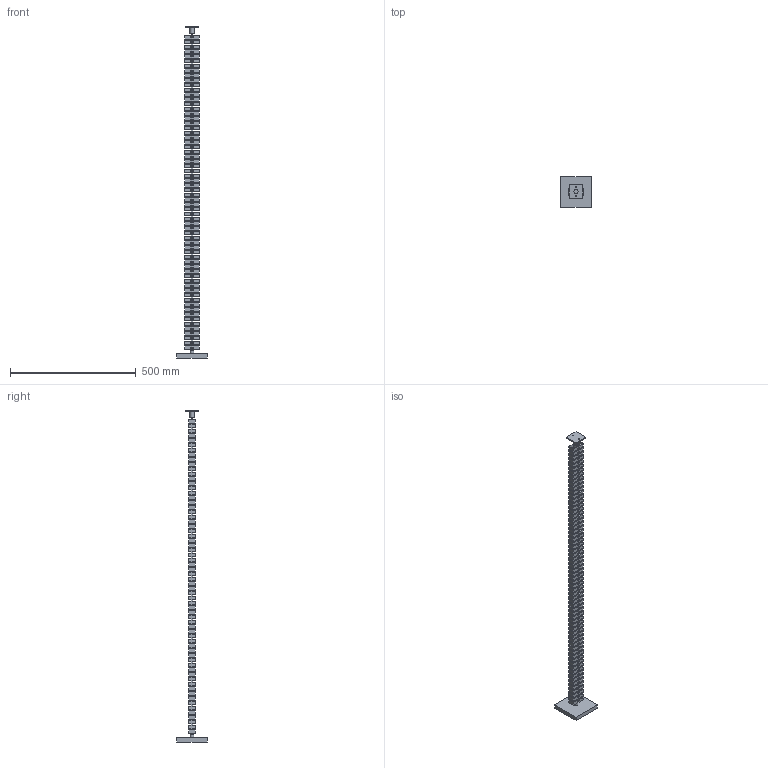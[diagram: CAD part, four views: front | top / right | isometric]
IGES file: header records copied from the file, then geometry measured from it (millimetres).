
Start section: Data from Parasolid IGES Translator 20.0.26, Copyright(c) 2006 Siemens P LM Software. All Rights Reserved.
Global section: file name: 9309812.igs; native system: By Siemens PLM Incorporated; preprocessor: XPlus GENERIC/IGES 20.0.26; author: Noname; organization: Noname; date: 20211203.151359; units: millimetre
Bounding box: 120 x 120 x 1321 mm (x, y, z)
Surface area: 438586.6 mm2 (no closed solid volume)
Topology: 0 solids, 0 shells, 1804 faces, 9996 edges, 9988 vertices
Faces by surface type: extrusion 1602, revolution 202
